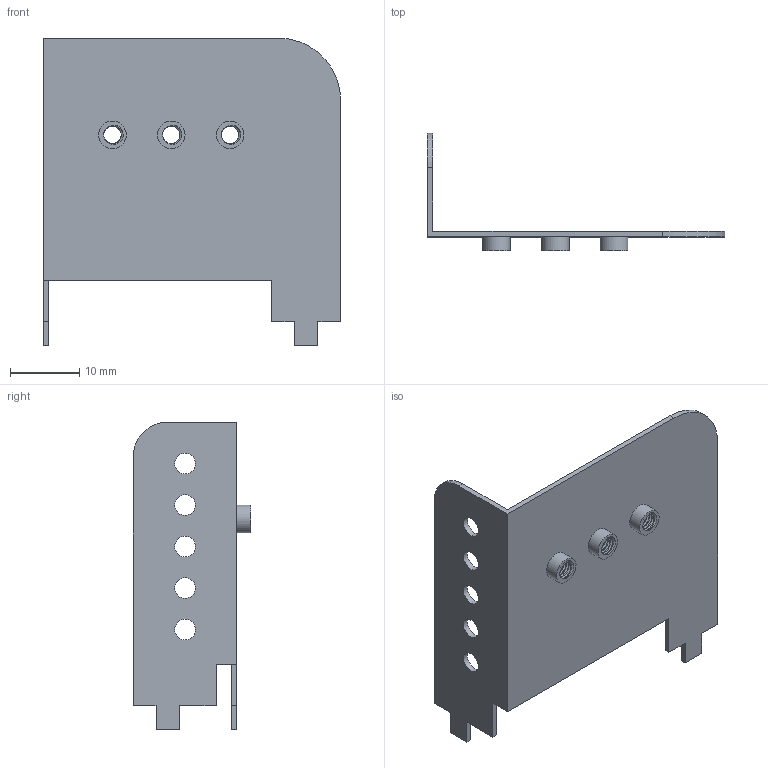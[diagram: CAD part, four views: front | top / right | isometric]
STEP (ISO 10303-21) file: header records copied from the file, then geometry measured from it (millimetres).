
FILE_DESCRIPTION(/* description */ ('','CAx-IF Rec.Pracs.---Representation and Presentation of Product Manufacturing Information (PMI)---4.0---2014-10-13'),/* implementation_level */ '2;1');
FILE_NAME(/* name */ 'TypeE-2-0.8.step',/* time_stamp */ '2025-01-27T02:27:32+09:00',/* author */ (''),/* organization */ (''),/* preprocessor_version */ 'ST-DEVELOPER v20',/* originating_system */ 'Autodesk Translation Framework v13.20.0.188',/* authorisation */ '');
FILE_SCHEMA (('AP242_MANAGED_MODEL_BASED_3D_ENGINEERING_MIM_LF { 1 0 10303 442 1 1 4 }'));
Length unit declared in the file: millimetre
Products named in the file (1): (未保存)
Bounding box: 43 x 17 x 44.5 mm (x, y, z)
Volume: 1704.9 mm3; surface area: 4570.2 mm2
Topology: 1 solids, 1 shells, 78 faces, 219 edges, 146 vertices
Faces by surface type: cylinder 49, plane 23, bspline 6
Full cylindrical faces by diameter (mm): 2.529 x6, 3 x5, 3.086 x3, 4 x3
Entity records: 5368 total; most frequent: CARTESIAN_POINT 3450, ORIENTED_EDGE 438, DIRECTION 307, EDGE_CURVE 219, VERTEX_POINT 146, AXIS2_PLACEMENT_3D 105, EDGE_LOOP 97, LINE 97
